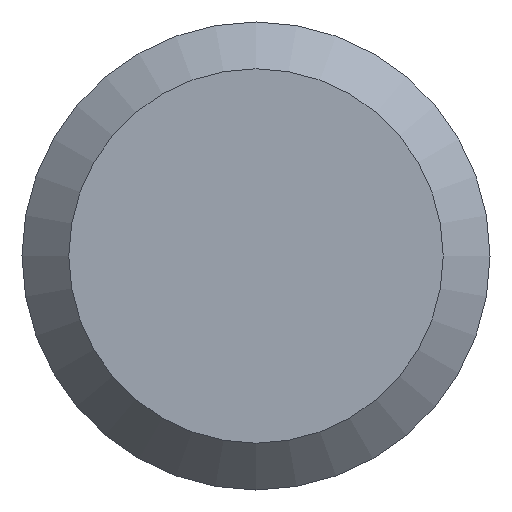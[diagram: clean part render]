
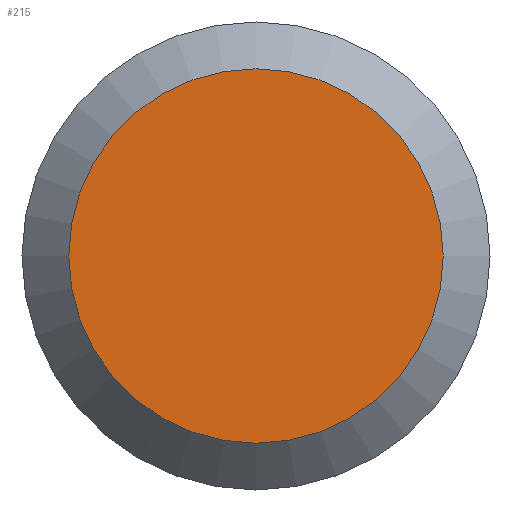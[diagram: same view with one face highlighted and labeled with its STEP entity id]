
A CAD part, left-side view. The second image highlights one B-rep face of the part: STEP entity #215.
In plain terms, the highlighted planar face has unit normal (-1, 0, 0).
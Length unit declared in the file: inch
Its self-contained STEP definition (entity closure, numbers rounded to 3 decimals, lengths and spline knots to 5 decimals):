
#20 = DIRECTION ( 'NONE',  ( -1., 0., 0. ) ) ;
#31 = CARTESIAN_POINT ( 'NONE',  ( 0., 0.133, 0. ) ) ;
#32 = EDGE_LOOP ( 'NONE', ( #225 ) ) ;
#47 = CARTESIAN_POINT ( 'NONE',  ( 0., 0., -0.1064 ) ) ;
#68 = CARTESIAN_POINT ( 'NONE',  ( 0., 0., 0. ) ) ;
#73 = VERTEX_POINT ( 'NONE', #47 ) ;
#96 = DIRECTION ( 'NONE',  ( 0., 0., -1. ) ) ;
#99 = DIRECTION ( 'NONE',  ( 0., 0., -1. ) ) ;
#119 = DIRECTION ( 'NONE',  ( 1., 0., 0. ) ) ;
#130 = AXIS2_PLACEMENT_3D ( 'NONE', #31, #119, #99 ) ;
#138 = PLANE ( 'NONE',  #130 ) ;
#146 = FACE_OUTER_BOUND ( 'NONE', #32, .T. ) ;
#152 = CIRCLE ( 'NONE', #185, 0.1064 ) ;
#185 = AXIS2_PLACEMENT_3D ( 'NONE', #68, #20, #96 ) ;
#189 = EDGE_CURVE ( 'NONE', #73, #73, #152, .T. ) ;
#215 = ADVANCED_FACE ( 'NONE', ( #146 ), #138, .F. ) ;
#225 = ORIENTED_EDGE ( 'NONE', *, *, #189, .T. ) ;
